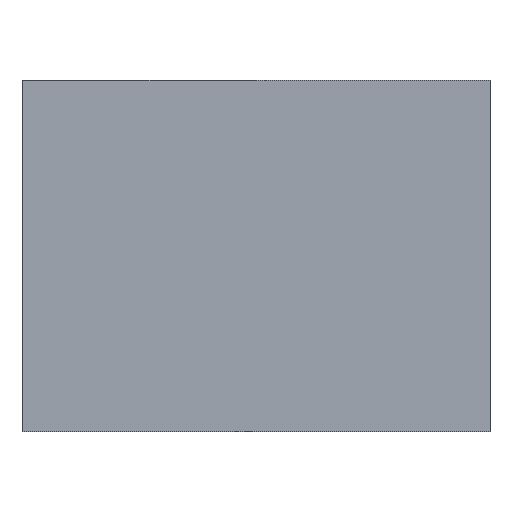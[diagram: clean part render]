
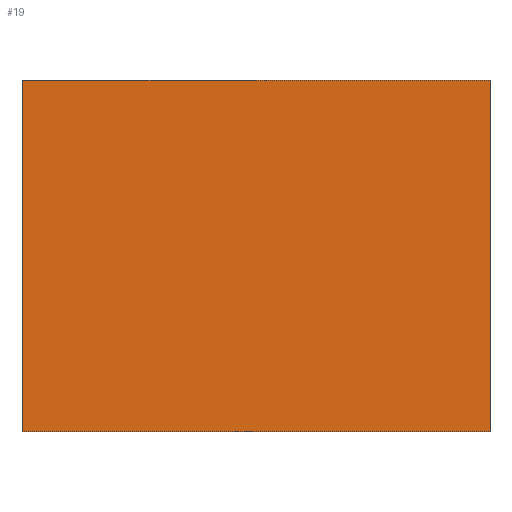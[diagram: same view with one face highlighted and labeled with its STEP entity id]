
A CAD part, front view. The second image highlights one B-rep face of the part: STEP entity #19.
In plain terms, the highlighted planar face has unit normal (0, -1, 0).
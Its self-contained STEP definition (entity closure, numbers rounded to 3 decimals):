
#19 = ADVANCED_FACE ( 'NONE', ( #220 ), #1935, .F. ) ;
#61 = AXIS2_PLACEMENT_3D ( 'NONE', #1844, #2472, #1083 ) ;
#220 = FACE_OUTER_BOUND ( 'NONE', #1613, .T. ) ;
#244 = LINE ( 'NONE', #2290, #1214 ) ;
#341 = CARTESIAN_POINT ( 'NONE',  ( 80., 0., -60. ) ) ;
#373 = ORIENTED_EDGE ( 'NONE', *, *, #1013, .F. ) ;
#378 = CARTESIAN_POINT ( 'NONE',  ( 80., 0., -60. ) ) ;
#425 = VECTOR ( 'NONE', #2293, 1000. ) ;
#471 = VECTOR ( 'NONE', #545, 1000. ) ;
#545 = DIRECTION ( 'NONE',  ( 0., 0., -1. ) ) ;
#573 = EDGE_CURVE ( 'NONE', #752, #1328, #1507, .T. ) ;
#650 = ORIENTED_EDGE ( 'NONE', *, *, #573, .F. ) ;
#698 = ORIENTED_EDGE ( 'NONE', *, *, #1240, .F. ) ;
#752 = VERTEX_POINT ( 'NONE', #2257 ) ;
#958 = DIRECTION ( 'NONE',  ( -1., 0., 0. ) ) ;
#988 = CARTESIAN_POINT ( 'NONE',  ( -80., 0., -60. ) ) ;
#1013 = EDGE_CURVE ( 'NONE', #1328, #2215, #1185, .T. ) ;
#1083 = DIRECTION ( 'NONE',  ( 0., 0., 1. ) ) ;
#1185 = LINE ( 'NONE', #988, #1680 ) ;
#1214 = VECTOR ( 'NONE', #2100, 1000. ) ;
#1240 = EDGE_CURVE ( 'NONE', #2266, #752, #2062, .T. ) ;
#1328 = VERTEX_POINT ( 'NONE', #378 ) ;
#1507 = LINE ( 'NONE', #341, #471 ) ;
#1613 = EDGE_LOOP ( 'NONE', ( #650, #698, #1707, #373 ) ) ;
#1680 = VECTOR ( 'NONE', #958, 1000. ) ;
#1707 = ORIENTED_EDGE ( 'NONE', *, *, #2386, .F. ) ;
#1844 = CARTESIAN_POINT ( 'NONE',  ( 0., 0., 0. ) ) ;
#1887 = CARTESIAN_POINT ( 'NONE',  ( -80., 0., 60. ) ) ;
#1900 = CARTESIAN_POINT ( 'NONE',  ( -80., 0., 60. ) ) ;
#1935 = PLANE ( 'NONE',  #61 ) ;
#2062 = LINE ( 'NONE', #1900, #425 ) ;
#2073 = CARTESIAN_POINT ( 'NONE',  ( -80., 0., -60. ) ) ;
#2100 = DIRECTION ( 'NONE',  ( 0., 0., 1. ) ) ;
#2215 = VERTEX_POINT ( 'NONE', #2073 ) ;
#2257 = CARTESIAN_POINT ( 'NONE',  ( 80., 0., 60. ) ) ;
#2266 = VERTEX_POINT ( 'NONE', #1887 ) ;
#2290 = CARTESIAN_POINT ( 'NONE',  ( -80., 0., -60. ) ) ;
#2293 = DIRECTION ( 'NONE',  ( 1., 0., 0. ) ) ;
#2386 = EDGE_CURVE ( 'NONE', #2215, #2266, #244, .T. ) ;
#2472 = DIRECTION ( 'NONE',  ( 0., 1., 0. ) ) ;
